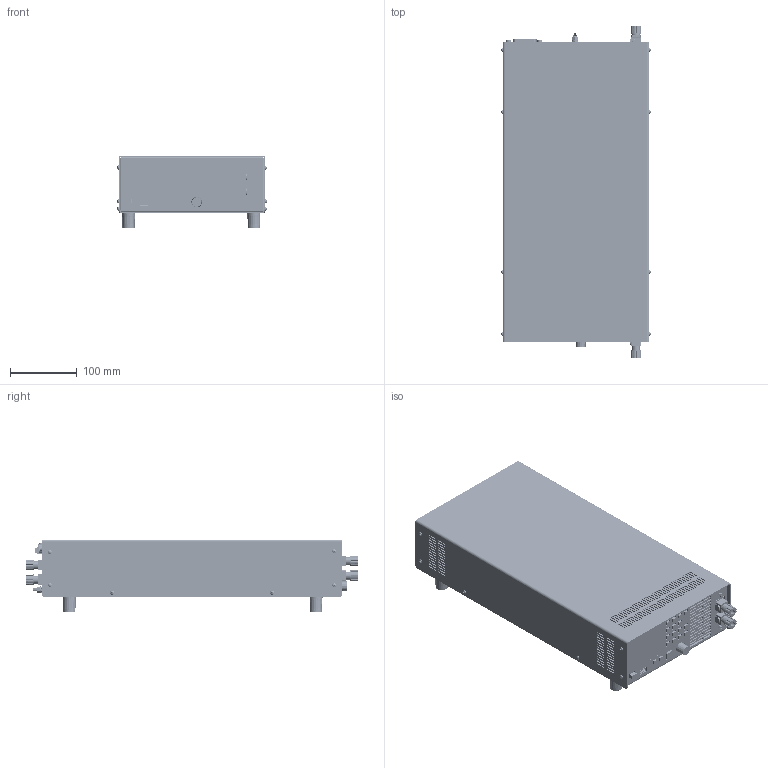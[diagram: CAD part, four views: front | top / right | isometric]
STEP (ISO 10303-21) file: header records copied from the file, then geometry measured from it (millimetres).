
FILE_DESCRIPTION(('STEP AP214'),'1');
FILE_NAME('PLI_M2_H19Z_2HE_BPK4_30L_BPK4_30L_BRB_3D_04.step','2024-06-03T08:43:06',(' '),(' '),'Spatial InterOp 3D',' ',' ');
FILE_SCHEMA(('AUTOMOTIVE_DESIGN { 1 0 10303 214 1 1 1 1 }'));
Length unit declared in the file: millimetre
Products named in the file (20): 420_PLI_Halb19_Zoll_Deckel_3D_02; DIN 7985-AxM3 X 0.5x4; 1419_PLI_Halb19_Zoll_Rückwand_3D_05_mit_Einbauten_BPK4_30L_BRB_02; 1F840730; 1E5E0040; 3xM2.5_5x5x12; *U314; *U315; *U316; PEM_M3_; 1419_PLI_Halb19_Zoll_Rückwand_3D_06; AutoCreatedBlock_1080; DA M3x5; AutoCreatedBlock_1064; 1590_PLI_Frontpl_halb19Zoll_mit_Sil_Tast_3D_03_mit_Einbauten_und_Overlay_PBK4_30L_BRB_02; PLI_Frontplatteneinbauten_nur_für_3D_Modellkonstruktion_3D; A$C5F9A8610; AutoCreatedBlock_1084; AutoCreatedBlock_1056
Assembly tree (45 placements, depth 4):
  (unnamed)
    420_PLI_Halb19_Zoll_Deckel_3D_02
    DIN 7985-AxM3 X 0.5x4  x12
    1419_PLI_Halb19_Zoll_Rückwand_3D_05_mit_Einbauten_BPK4_30L_BRB_02
      1F840730  x2
      1E5E0040
      3xM2.5_5x5x12  x2
      *U314
      *U315  x3
      *U316  x2
      PEM_M3_
      1419_PLI_Halb19_Zoll_Rückwand_3D_06
        PEM_M3_  x7
        AutoCreatedBlock_1080
      DA M3x5  x4
      AutoCreatedBlock_1064
    1590_PLI_Frontpl_halb19Zoll_mit_Sil_Tast_3D_03_mit_Einbauten_und_Overlay_PBK4_30L_BRB_02
      PLI_Frontplatteneinbauten_nur_für_3D_Modellkonstruktion_3D
      A$C5F9A8610
      AutoCreatedBlock_1084
    AutoCreatedBlock_1056
Bounding box: 224.31 x 498 x 109.5 mm (x, y, z)
Volume: 7817111.6 mm3; surface area: 1017025.1 mm2
Topology: 101 solids, 136 shells, 12369 faces, 34375 edges, 22762 vertices
Faces by surface type: plane 8453, cylinder 2155, cone 1246, bspline 205, torus 190, sphere 102, extrusion 18
Entity records: 457343 total; most frequent: CARTESIAN_POINT 89985, ORIENTED_EDGE 58646, DIRECTION 55267, EDGE_CURVE 29430, VECTOR 22129, LINE 22111, VERTEX_POINT 19226, AXIS2_PLACEMENT_3D 16569
